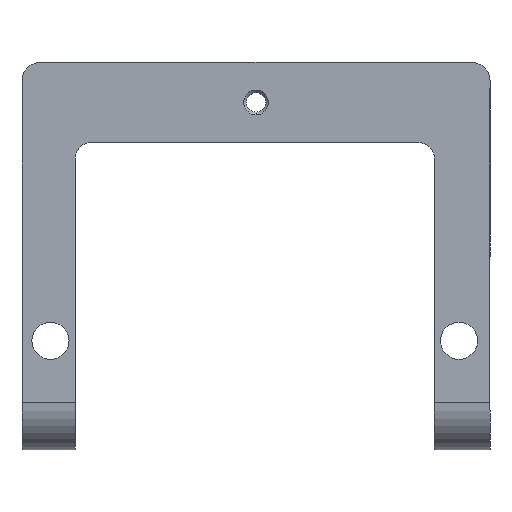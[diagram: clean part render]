
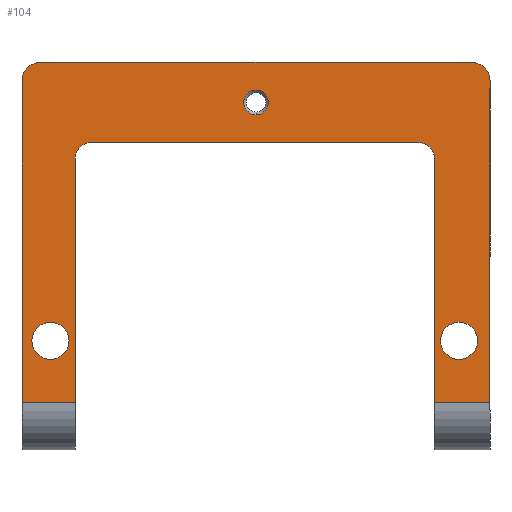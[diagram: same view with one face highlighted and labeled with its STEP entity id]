
A CAD part, top view. The second image highlights one B-rep face of the part: STEP entity #104.
In plain terms, the highlighted planar face has unit normal (0, 0, 1).
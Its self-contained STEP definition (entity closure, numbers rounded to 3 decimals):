
#104=ADVANCED_FACE('',(#194,#195,#196,#149),#497,.T.);
#149=FACE_OUTER_BOUND('',#208,.F.);
#194=FACE_BOUND('',#205,.F.);
#195=FACE_BOUND('',#206,.F.);
#196=FACE_BOUND('',#207,.F.);
#205=EDGE_LOOP('',(#261,#262));
#206=EDGE_LOOP('',(#263,#264));
#207=EDGE_LOOP('',(#265,#266));
#208=EDGE_LOOP('',(#267,#268,#269,#270,#271,#272,#273,#274,#275,#276,#277,
#278));
#261=ORIENTED_EDGE('',*,*,#934,.T.);
#262=ORIENTED_EDGE('',*,*,#935,.T.);
#263=ORIENTED_EDGE('',*,*,#958,.T.);
#264=ORIENTED_EDGE('',*,*,#959,.T.);
#265=ORIENTED_EDGE('',*,*,#960,.T.);
#266=ORIENTED_EDGE('',*,*,#961,.T.);
#267=ORIENTED_EDGE('',*,*,#938,.F.);
#268=ORIENTED_EDGE('',*,*,#954,.F.);
#269=ORIENTED_EDGE('',*,*,#937,.F.);
#270=ORIENTED_EDGE('',*,*,#952,.F.);
#271=ORIENTED_EDGE('',*,*,#936,.F.);
#272=ORIENTED_EDGE('',*,*,#957,.F.);
#273=ORIENTED_EDGE('',*,*,#941,.T.);
#274=ORIENTED_EDGE('',*,*,#942,.T.);
#275=ORIENTED_EDGE('',*,*,#943,.T.);
#276=ORIENTED_EDGE('',*,*,#944,.T.);
#277=ORIENTED_EDGE('',*,*,#945,.T.);
#278=ORIENTED_EDGE('',*,*,#956,.F.);
#497=PLANE('',#1224);
#800=LINE('',#1618,#866);
#801=LINE('',#1619,#867);
#802=LINE('',#1620,#868);
#805=LINE('',#1623,#871);
#806=LINE('',#1625,#872);
#807=LINE('',#1627,#873);
#812=LINE('',#1638,#878);
#813=LINE('',#1639,#879);
#866=VECTOR('',#1289,26.);
#867=VECTOR('',#1290,34.8);
#868=VECTOR('',#1291,26.);
#871=VECTOR('',#1294,19.75);
#872=VECTOR('',#1297,26.5);
#873=VECTOR('',#1300,19.75);
#878=VECTOR('',#1317,4.3);
#879=VECTOR('',#1318,4.5);
#934=EDGE_CURVE('',#1167,#1166,#1052,.T.);
#935=EDGE_CURVE('',#1166,#1167,#1053,.T.);
#936=EDGE_CURVE('',#1165,#1164,#800,.T.);
#937=EDGE_CURVE('',#1163,#1162,#801,.T.);
#938=EDGE_CURVE('',#1161,#1160,#802,.T.);
#941=EDGE_CURVE('',#1155,#1154,#805,.T.);
#942=EDGE_CURVE('',#1154,#1153,#1054,.T.);
#943=EDGE_CURVE('',#1153,#1152,#806,.T.);
#944=EDGE_CURVE('',#1152,#1151,#1055,.T.);
#945=EDGE_CURVE('',#1151,#1150,#807,.T.);
#952=EDGE_CURVE('',#1164,#1163,#1058,.T.);
#954=EDGE_CURVE('',#1162,#1161,#1060,.T.);
#956=EDGE_CURVE('',#1160,#1150,#812,.T.);
#957=EDGE_CURVE('',#1155,#1165,#813,.T.);
#958=EDGE_CURVE('',#1141,#1140,#1062,.T.);
#959=EDGE_CURVE('',#1140,#1141,#1063,.T.);
#960=EDGE_CURVE('',#1139,#1138,#1064,.T.);
#961=EDGE_CURVE('',#1138,#1139,#1065,.T.);
#1052=CIRCLE('',#1182,1.);
#1053=CIRCLE('',#1183,1.);
#1054=CIRCLE('',#1184,1.25);
#1055=CIRCLE('',#1185,1.25);
#1058=CIRCLE('',#1188,1.5);
#1060=CIRCLE('',#1190,1.5);
#1062=CIRCLE('',#1192,1.5);
#1063=CIRCLE('',#1193,1.5);
#1064=CIRCLE('',#1194,1.5);
#1065=CIRCLE('',#1195,1.5);
#1138=VERTEX_POINT('',#1582);
#1139=VERTEX_POINT('',#1583);
#1140=VERTEX_POINT('',#1584);
#1141=VERTEX_POINT('',#1585);
#1150=VERTEX_POINT('',#1594);
#1151=VERTEX_POINT('',#1595);
#1152=VERTEX_POINT('',#1596);
#1153=VERTEX_POINT('',#1597);
#1154=VERTEX_POINT('',#1598);
#1155=VERTEX_POINT('',#1599);
#1160=VERTEX_POINT('',#1604);
#1161=VERTEX_POINT('',#1605);
#1162=VERTEX_POINT('',#1606);
#1163=VERTEX_POINT('',#1607);
#1164=VERTEX_POINT('',#1608);
#1165=VERTEX_POINT('',#1609);
#1166=VERTEX_POINT('',#1610);
#1167=VERTEX_POINT('',#1611);
#1182=AXIS2_PLACEMENT_3D('',#1616,#1285,#1286);
#1183=AXIS2_PLACEMENT_3D('',#1617,#1287,#1288);
#1184=AXIS2_PLACEMENT_3D('',#1624,#1295,#1296);
#1185=AXIS2_PLACEMENT_3D('',#1626,#1298,#1299);
#1188=AXIS2_PLACEMENT_3D('',#1634,#1309,#1310);
#1190=AXIS2_PLACEMENT_3D('',#1636,#1313,#1314);
#1192=AXIS2_PLACEMENT_3D('',#1640,#1319,#1320);
#1193=AXIS2_PLACEMENT_3D('',#1641,#1321,#1322);
#1194=AXIS2_PLACEMENT_3D('',#1642,#1323,#1324);
#1195=AXIS2_PLACEMENT_3D('',#1643,#1325,#1326);
#1224=AXIS2_PLACEMENT_3D('',#1718,#1429,#1430);
#1285=DIRECTION('',(0.,0.,1.));
#1286=DIRECTION('',(0.,-1.,0.));
#1287=DIRECTION('',(0.,0.,1.));
#1288=DIRECTION('',(0.,1.,0.));
#1289=DIRECTION('',(0.,1.,0.));
#1290=DIRECTION('',(-1.,0.,0.));
#1291=DIRECTION('',(0.,-1.,0.));
#1294=DIRECTION('',(0.,1.,0.));
#1295=DIRECTION('',(0.,0.,1.));
#1296=DIRECTION('',(1.,0.,0.));
#1297=DIRECTION('',(-1.,0.,0.));
#1298=DIRECTION('',(0.,0.,1.));
#1299=DIRECTION('',(0.,1.,0.));
#1300=DIRECTION('',(0.,-1.,0.));
#1309=DIRECTION('',(0.,0.,1.));
#1310=DIRECTION('',(1.,0.,0.));
#1313=DIRECTION('',(0.,0.,1.));
#1314=DIRECTION('',(0.,1.,0.));
#1317=DIRECTION('',(1.,0.,0.));
#1318=DIRECTION('',(1.,0.,0.));
#1319=DIRECTION('',(0.,0.,1.));
#1320=DIRECTION('',(0.,-1.,0.));
#1321=DIRECTION('',(0.,0.,1.));
#1322=DIRECTION('',(0.,1.,0.));
#1323=DIRECTION('',(0.,0.,1.));
#1324=DIRECTION('',(0.,-1.,0.));
#1325=DIRECTION('',(0.,0.,1.));
#1326=DIRECTION('',(0.,1.,0.));
#1429=DIRECTION('',(0.,0.,1.));
#1430=DIRECTION('',(-1.,0.,0.));
#1582=CARTESIAN_POINT('',(21.5,62.3,186.6));
#1583=CARTESIAN_POINT('',(21.5,59.3,186.6));
#1584=CARTESIAN_POINT('',(-11.5,62.3,186.6));
#1585=CARTESIAN_POINT('',(-11.5,59.3,186.6));
#1594=CARTESIAN_POINT('',(-9.5,55.8,186.6));
#1595=CARTESIAN_POINT('',(-9.5,75.55,186.6));
#1596=CARTESIAN_POINT('',(-8.25,76.8,186.6));
#1597=CARTESIAN_POINT('',(18.25,76.8,186.6));
#1598=CARTESIAN_POINT('',(19.5,75.55,186.6));
#1599=CARTESIAN_POINT('',(19.5,55.8,186.6));
#1604=CARTESIAN_POINT('',(-13.8,55.8,186.6));
#1605=CARTESIAN_POINT('',(-13.8,81.8,186.6));
#1606=CARTESIAN_POINT('',(-12.3,83.3,186.6));
#1607=CARTESIAN_POINT('',(22.5,83.3,186.6));
#1608=CARTESIAN_POINT('',(24.,81.8,186.6));
#1609=CARTESIAN_POINT('',(24.,55.8,186.6));
#1610=CARTESIAN_POINT('',(5.1,81.05,186.6));
#1611=CARTESIAN_POINT('',(5.1,79.05,186.6));
#1616=CARTESIAN_POINT('',(5.1,80.05,186.6));
#1617=CARTESIAN_POINT('',(5.1,80.05,186.6));
#1618=CARTESIAN_POINT('',(24.,55.8,186.6));
#1619=CARTESIAN_POINT('',(22.5,83.3,186.6));
#1620=CARTESIAN_POINT('',(-13.8,81.8,186.6));
#1623=CARTESIAN_POINT('',(19.5,55.8,186.6));
#1624=CARTESIAN_POINT('',(18.25,75.55,186.6));
#1625=CARTESIAN_POINT('',(18.25,76.8,186.6));
#1626=CARTESIAN_POINT('',(-8.25,75.55,186.6));
#1627=CARTESIAN_POINT('',(-9.5,75.55,186.6));
#1634=CARTESIAN_POINT('',(22.5,81.8,186.6));
#1636=CARTESIAN_POINT('',(-12.3,81.8,186.6));
#1638=CARTESIAN_POINT('',(-13.8,55.8,186.6));
#1639=CARTESIAN_POINT('',(19.5,55.8,186.6));
#1640=CARTESIAN_POINT('',(-11.5,60.8,186.6));
#1641=CARTESIAN_POINT('',(-11.5,60.8,186.6));
#1642=CARTESIAN_POINT('',(21.5,60.8,186.6));
#1643=CARTESIAN_POINT('',(21.5,60.8,186.6));
#1718=CARTESIAN_POINT('',(24.378,83.678,186.6));
